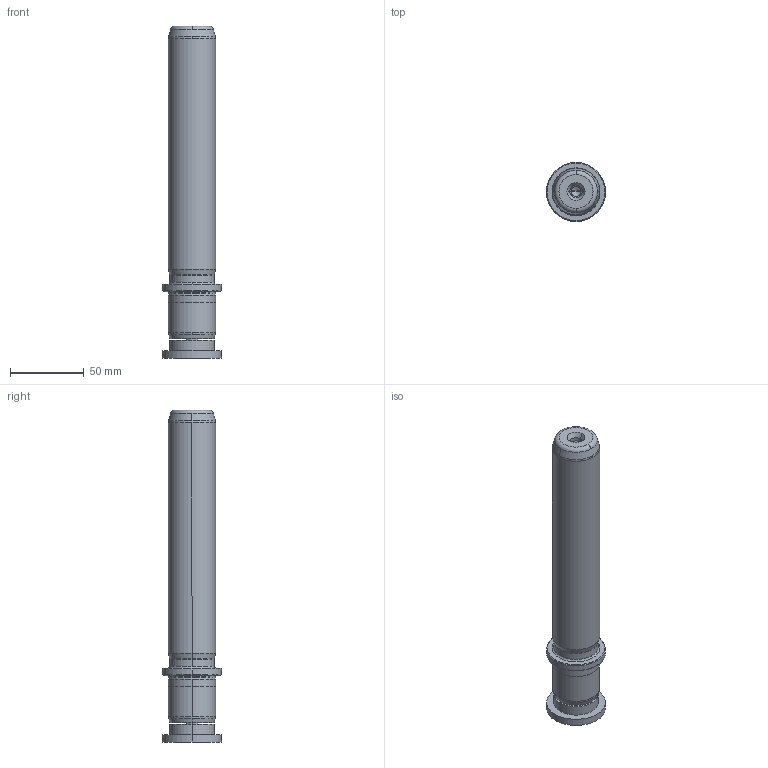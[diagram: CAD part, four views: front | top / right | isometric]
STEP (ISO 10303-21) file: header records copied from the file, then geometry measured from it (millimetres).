
FILE_DESCRIPTION((''),'2;1');
FILE_NAME('P22_032_180.stp','2009-02-03T14:02:01',(''),(''),'Mechanical Desktop 2009','Mechanical Desktop 2009',', , ');
FILE_SCHEMA(('CONFIG_CONTROL_DESIGN'));
Length unit declared in the file: millimetre
Products named in the file (2): Product; blmdl1
Assembly tree (1 placements, depth 2):
  Product
    blmdl1
Bounding box: 40 x 40 x 225 mm (x, y, z)
Volume: 180084.9 mm3; surface area: 29901.2 mm2
Topology: 3 solids, 3 shells, 99 faces, 237 edges, 149 vertices
Faces by surface type: cylinder 32, cone 28, plane 19, torus 10, bspline 10
Entity records: 3419 total; most frequent: CARTESIAN_POINT 923, DIRECTION 570, ORIENTED_EDGE 466, AXIS2_PLACEMENT_3D 246, EDGE_CURVE 233, CIRCLE 155, VERTEX_POINT 149, EDGE_LOOP 110
